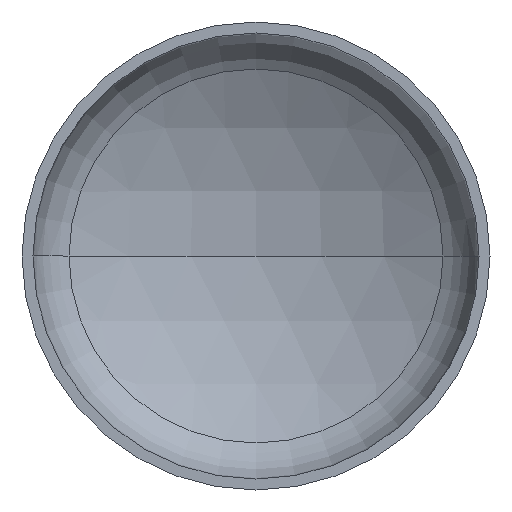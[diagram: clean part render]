
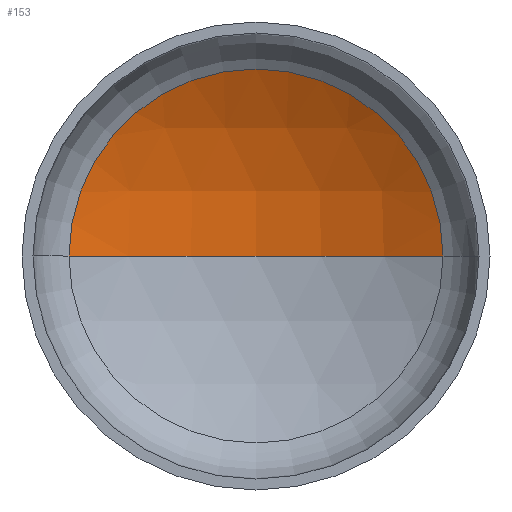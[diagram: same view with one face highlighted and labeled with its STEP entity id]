
A CAD part, front view. The second image highlights one B-rep face of the part: STEP entity #153.
In plain terms, the highlighted spherical face has radius 3200 mm.
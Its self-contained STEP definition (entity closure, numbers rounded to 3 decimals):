
#2 = AXIS2_PLACEMENT_3D ( 'NONE', #164, #169, #365 ) ;
#4 = AXIS2_PLACEMENT_3D ( 'NONE', #150, #404, #300 ) ;
#31 = AXIS2_PLACEMENT_3D ( 'NONE', #188, #289, #162 ) ;
#39 = EDGE_LOOP ( 'NONE', ( #214, #283, #184 ) ) ;
#42 = VERTEX_POINT ( 'NONE', #350 ) ;
#84 = DIRECTION ( 'NONE',  ( 0., -1., 0. ) ) ;
#89 = DIRECTION ( 'NONE',  ( 1., 0., 0. ) ) ;
#131 = VERTEX_POINT ( 'NONE', #191 ) ;
#150 = CARTESIAN_POINT ( 'NONE',  ( 0., -2139.541, 0. ) ) ;
#153 = ADVANCED_FACE ( 'NONE', ( #243 ), #155, .F. ) ;
#155 = SPHERICAL_SURFACE ( 'NONE', #31, 3200. ) ;
#162 = DIRECTION ( 'NONE',  ( -1., 0., 0. ) ) ;
#164 = CARTESIAN_POINT ( 'NONE',  ( 0., -2139.541, 0. ) ) ;
#169 = DIRECTION ( 'NONE',  ( 0., 0., -1. ) ) ;
#184 = ORIENTED_EDGE ( 'NONE', *, *, #374, .T. ) ;
#187 = CIRCLE ( 'NONE', #4, 3200. ) ;
#188 = CARTESIAN_POINT ( 'NONE',  ( 0., -2139.541, 0. ) ) ;
#191 = CARTESIAN_POINT ( 'NONE',  ( 0., 1060.459, 0. ) ) ;
#197 = VERTEX_POINT ( 'NONE', #205 ) ;
#205 = CARTESIAN_POINT ( 'NONE',  ( 1598.143, 632.812, 0. ) ) ;
#214 = ORIENTED_EDGE ( 'NONE', *, *, #353, .F. ) ;
#243 = FACE_OUTER_BOUND ( 'NONE', #39, .T. ) ;
#261 = CIRCLE ( 'NONE', #2, 3200. ) ;
#283 = ORIENTED_EDGE ( 'NONE', *, *, #367, .T. ) ;
#284 = CARTESIAN_POINT ( 'NONE',  ( 0., 632.812, 0. ) ) ;
#289 = DIRECTION ( 'NONE',  ( 0., 0., -1. ) ) ;
#300 = DIRECTION ( 'NONE',  ( 1., 0., 0. ) ) ;
#329 = CIRCLE ( 'NONE', #345, 1598.143 ) ;
#345 = AXIS2_PLACEMENT_3D ( 'NONE', #284, #84, #89 ) ;
#350 = CARTESIAN_POINT ( 'NONE',  ( -1598.143, 632.812, 0. ) ) ;
#353 = EDGE_CURVE ( 'NONE', #131, #42, #187, .T. ) ;
#365 = DIRECTION ( 'NONE',  ( -1., 0., 0. ) ) ;
#367 = EDGE_CURVE ( 'NONE', #131, #197, #261, .T. ) ;
#374 = EDGE_CURVE ( 'NONE', #197, #42, #329, .T. ) ;
#404 = DIRECTION ( 'NONE',  ( 0., 0., 1. ) ) ;
